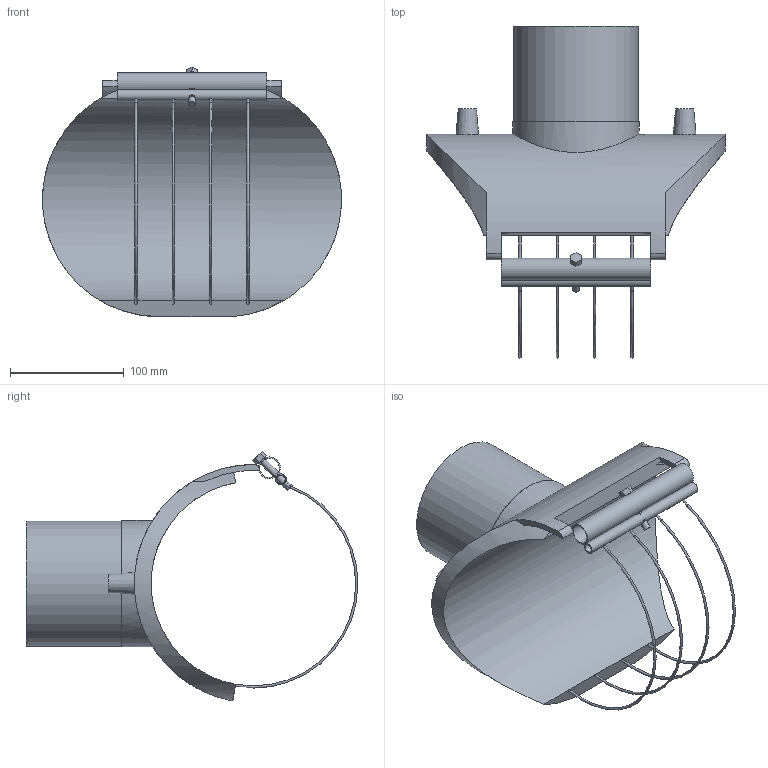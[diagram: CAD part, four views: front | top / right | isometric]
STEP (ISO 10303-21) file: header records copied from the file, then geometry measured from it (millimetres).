
FILE_DESCRIPTION(/* description */ ('Plasson Branch Saddle 180x110'),/* implementation_level */ '2;1');
FILE_NAME(/* name */ 'C:\Dropbox\KIMPROJECTS-Inventor 2019\99-16-3568-Processing\ElectroFusion Fittings\4958X4\4958X4180110T.stp',/* time_stamp */ '2025-05-07T12:15:21+03:00',/* author */ ('KIM'),/* organization */ (''),/* preprocessor_version */ 'ST-DEVELOPER v18.1',/* originating_system */ 'Autodesk Inventor 2021',/* authorisation */ '');
FILE_SCHEMA (('AUTOMOTIVE_DESIGN { 1 0 10303 214 3 1 1 }'));
Length unit declared in the file: millimetre
Products named in the file (1): 4958X4180110T
Bounding box: 263 x 291.99 x 219.5 mm (x, y, z)
Volume: 1226459.6 mm3; surface area: 233702.6 mm2
Topology: 1 solids, 1 shells, 63 faces, 178 edges, 115 vertices
Faces by surface type: cylinder 28, plane 25, torus 8, cone 2
Full cylindrical faces by diameter (mm): 6 x3, 7.6 x1, 8 x1, 16 x1, 17.2 x1, 89 x1, 110 x1, 111 x1
Entity records: 2945 total; most frequent: CARTESIAN_POINT 1250, ORIENTED_EDGE 360, DIRECTION 331, EDGE_CURVE 180, AXIS2_PLACEMENT_3D 135, VERTEX_POINT 115, EDGE_LOOP 81, CIRCLE 67
